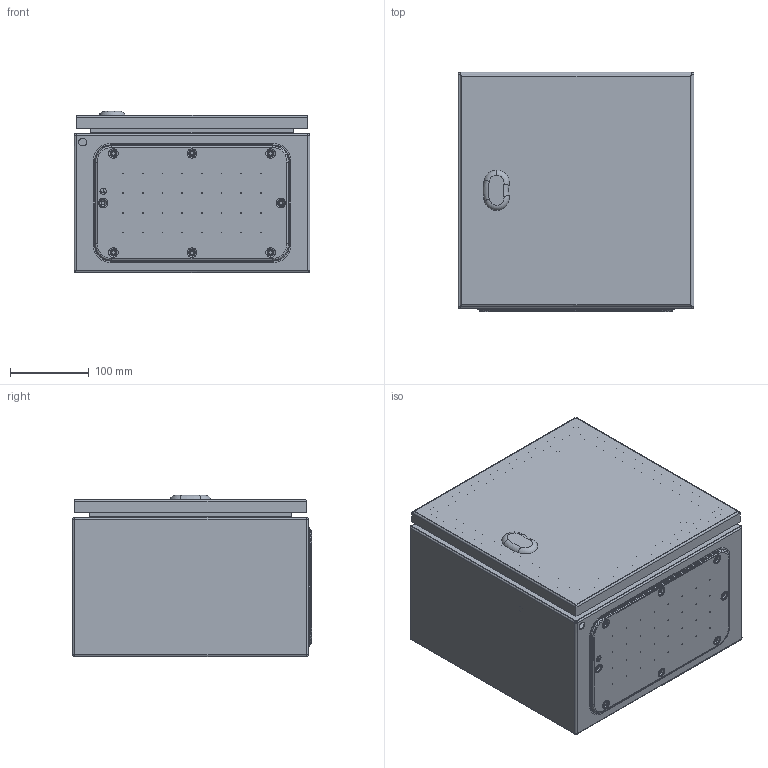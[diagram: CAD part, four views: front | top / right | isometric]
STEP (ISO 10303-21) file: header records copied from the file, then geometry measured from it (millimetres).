
FILE_DESCRIPTION (( 'STEP AP203' ), '1' );
FILE_NAME ('0300x0300x0200 dx.step', '2021-09-07T06:40:00', ( '' ), ( '' ), 'SwSTEP 2.0', 'SolidWorks 2021', '' );
FILE_SCHEMA (( 'CONFIG_CONTROL_DESIGN' ));
Length unit declared in the file: millimetre
Products named in the file (7): AR_ECOR_Piastra_03; 0300x0300x0200 dx; AR_ECOR_chiusura_std_STD; AR_ECOR_porta_singola_0300x0300; AR_ECOR_involucro_0300x0300x0200; AR_ECOR_flangia IC_03; AR_ECOR_montaggio_porta_singola_0300x0300
Assembly tree (6 placements, depth 3):
  0300x0300x0200 dx
    AR_ECOR_involucro_0300x0300x0200
    AR_ECOR_montaggio_porta_singola_0300x0300
      AR_ECOR_porta_singola_0300x0300
      AR_ECOR_chiusura_std_STD
    AR_ECOR_flangia IC_03
    AR_ECOR_Piastra_03
Bounding box: 300 x 304 x 205 mm (x, y, z)
Volume: 874620.5 mm3; surface area: 1087227.9 mm2
Topology: 5 solids, 5 shells, 646 faces, 1581 edges, 986 vertices
Faces by surface type: cylinder 308, plane 193, cone 60, torus 41, bspline 28, sphere 16
Entity records: 20758 total; most frequent: CARTESIAN_POINT 4414, DIRECTION 3472, ORIENTED_EDGE 3122, EDGE_CURVE 1561, AXIS2_PLACEMENT_3D 1379, VERTEX_POINT 986, EDGE_LOOP 819, CIRCLE 751
